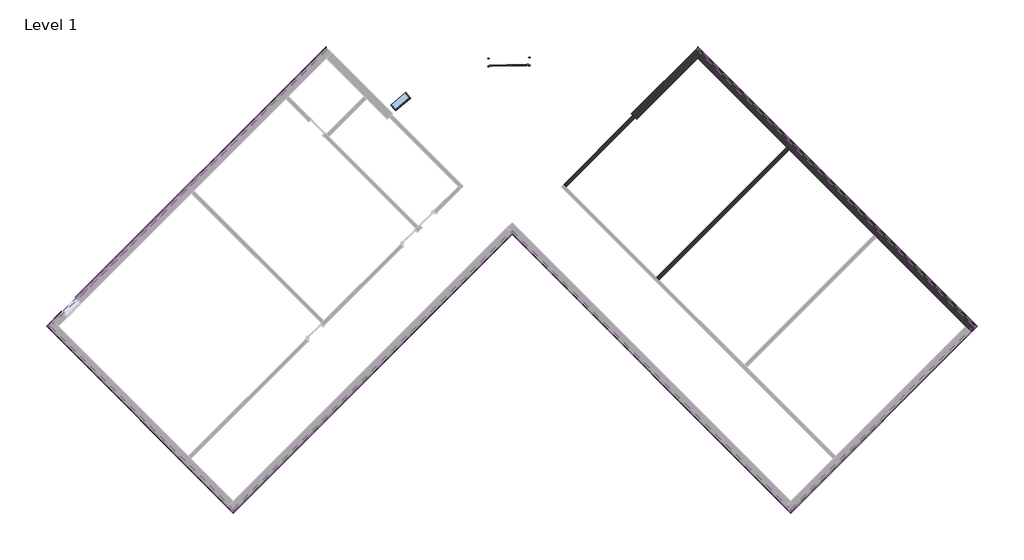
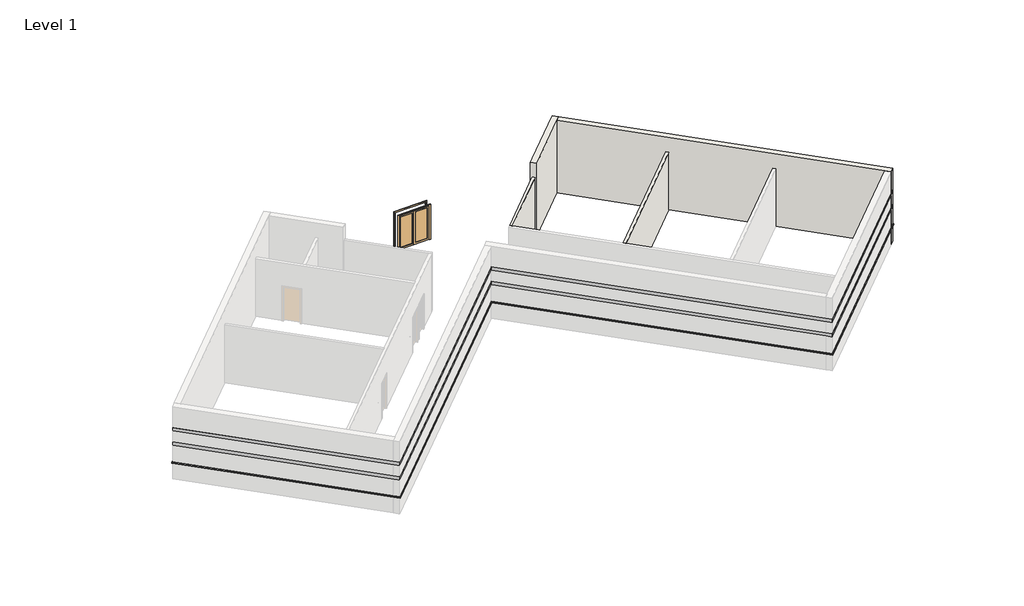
# One storey, part 2 of 2: 18 proxies, 4 walls, 1 door, 1 window.
"""IFC4 building model written with IfcOpenShell, lengths in millimetres."""

from ifc_helpers import new_model, si_unit, point, frame, frame_2d, origin, origin_with_axes, place, context, project, spatial, polyline, circle_curve, trimmed, segment, composite_curve, outline, extrude, faceted_brep, transform, mapped, element, save
from ifc_brep_helpers import plane_surface, cylinder_surface, revolved_surface, advanced_brep
from components import door_9e30bd7d, window_15c49d37

model = new_model("IFC4")

# Units and contexts
model_context = context("Model", 3, world=origin())
ifc_project = project(units=[si_unit("LENGTHUNIT", "METRE", prefix="MILLI")], contexts=[model_context])

# Site, building, storey
site = spatial("IfcSite", under=ifc_project)
building = spatial("IfcBuilding", under=site)
storey = spatial("IfcBuildingStorey", under=building, Name="Level 1", Elevation=0.0)

# Proxies
placement = place(None, origin())
element("IfcBuildingElementProxy", 1, Name="Wall Sweeps", at=placement, inside=storey, context=model_context, shape_type="Brep", body=[
    faceted_brep([(5753.0175119, 11443.3655905, 1085.85), (5753.0175119, 11573.5793042, 1085.85), (5753.0175119, 11622.9707129, 1041.4), (5753.0175119, 11622.9707129, 1016.0), (5753.0175119, 11443.3655905, 1016.0), (18554.3726125, -1357.9895101, 1085.85), (18554.3726125, -1357.9895101, 1016.0), (18733.9777349, -1357.9895101, 1016.0), (18733.9777349, -1357.9895101, 1041.4), (18684.5863263, -1357.9895101, 1085.85), (5937.1127624, 11259.27034, 1085.85), (5937.1127624, 11259.27034, 1016.0)], [[[0, 1, 2, 3, 4]], [[5, 6, 7, 8, 9]], [[1, 0, 10, 5, 9]], [[2, 1, 9, 8]], [[3, 2, 8, 7]], [[4, 3, 7, 6, 11]], [[0, 4, 11, 6, 5, 10]]]),
])
element("IfcBuildingElementProxy", 2, Name="Wall Sweeps", at=placement, inside=storey, context=model_context, shape_type="Brep", body=[
    faceted_brep([(5753.0175119, 11573.5793042, 2336.8), (5753.0175119, 11573.5793042, 2133.6), (5753.0175119, 11443.3655905, 2133.6), (5753.0175119, 11443.3655905, 2336.8), (18684.5863263, -1357.9895101, 2336.8), (18554.3726125, -1357.9895101, 2336.8), (18554.3726125, -1357.9895101, 2133.6), (18684.5863263, -1357.9895101, 2133.6), (6002.2196193, 11324.3771969, 2336.8), (6002.2196193, 11324.3771969, 2133.6), (5937.1127624, 11259.27034, 2133.6), (5937.1127624, 11259.27034, 2336.8)], [[[0, 1, 2, 3]], [[4, 5, 6, 7]], [[1, 0, 8, 4, 7, 9]], [[2, 1, 9, 7, 6, 10]], [[3, 2, 10, 6, 5, 11]], [[0, 3, 11, 5, 4, 8]]]),
])
element("IfcBuildingElementProxy", 3, Name="Wall Sweeps", at=placement, inside=storey, context=model_context, shape_type="Brep", body=[
    faceted_brep([(5753.0175119, 11573.5793042, 3251.2), (5753.0175119, 11573.5793042, 3048.0), (5753.0175119, 11443.3655905, 3048.0), (5753.0175119, 11443.3655905, 3251.2), (18684.5863263, -1357.9895101, 3251.2), (18554.3726125, -1357.9895101, 3251.2), (18554.3726125, -1357.9895101, 3048.0), (18684.5863263, -1357.9895101, 3048.0), (6002.2196193, 11324.3771969, 3251.2), (6002.2196193, 11324.3771969, 3048.0), (5937.1127624, 11259.27034, 3048.0), (5937.1127624, 11259.27034, 3251.2)], [[[0, 1, 2, 3]], [[4, 5, 6, 7]], [[1, 0, 8, 4, 7, 9]], [[2, 1, 9, 7, 6, 10]], [[3, 2, 10, 6, 5, 11]], [[0, 3, 11, 5, 4, 8]]]),
])
element("IfcBuildingElementProxy", 4, Name="Wall Sweeps", at=placement, inside=storey, context=model_context, shape_type="Brep", body=[
    faceted_brep([(18554.3726125, -1357.9895101, 1085.85), (18684.5863263, -1357.9895101, 1085.85), (18733.9777349, -1357.9895101, 1041.4), (18733.9777349, -1357.9895101, 1016.0), (18554.3726125, -1357.9895101, 1016.0), (10063.54045, -9848.8216726, 1085.85), (10063.54045, -9848.8216726, 1016.0), (10063.54045, -10028.426795, 1016.0), (10063.54045, -10028.426795, 1041.4), (10063.54045, -9979.0353863, 1085.85), (18370.277362, -1542.0847606, 1085.85), (18370.277362, -1542.0847606, 1016.0)], [[[0, 1, 2, 3, 4]], [[5, 6, 7, 8, 9]], [[1, 0, 10, 5, 9]], [[2, 1, 9, 8]], [[3, 2, 8, 7]], [[4, 3, 7, 6, 11]], [[0, 4, 11, 6, 5, 10]]]),
])
element("IfcBuildingElementProxy", 5, Name="Wall Sweeps", at=placement, inside=storey, context=model_context, shape_type="Brep", body=[
    faceted_brep([(18684.5863263, -1357.9895101, 2336.8), (18684.5863263, -1357.9895101, 2133.6), (18554.3726125, -1357.9895101, 2133.6), (18554.3726125, -1357.9895101, 2336.8), (10063.54045, -9979.0353863, 2336.8), (10063.54045, -9848.8216726, 2336.8), (10063.54045, -9848.8216726, 2133.6), (10063.54045, -9979.0353863, 2133.6), (18435.3842189, -1607.1916175, 2336.8), (18435.3842189, -1607.1916175, 2133.6), (18370.277362, -1542.0847606, 2133.6), (18370.277362, -1542.0847606, 2336.8)], [[[0, 1, 2, 3]], [[4, 5, 6, 7]], [[1, 0, 8, 4, 7, 9]], [[2, 1, 9, 7, 6, 10]], [[3, 2, 10, 6, 5, 11]], [[0, 3, 11, 5, 4, 8]]]),
])
element("IfcBuildingElementProxy", 6, Name="Wall Sweeps", at=placement, inside=storey, context=model_context, shape_type="Brep", body=[
    faceted_brep([(18684.5863263, -1357.9895101, 3251.2), (18684.5863263, -1357.9895101, 3048.0), (18554.3726125, -1357.9895101, 3048.0), (18554.3726125, -1357.9895101, 3251.2), (10063.54045, -9979.0353863, 3251.2), (10063.54045, -9848.8216726, 3251.2), (10063.54045, -9848.8216726, 3048.0), (10063.54045, -9979.0353863, 3048.0), (18435.3842189, -1607.1916175, 3251.2), (18435.3842189, -1607.1916175, 3048.0), (18370.277362, -1542.0847606, 3048.0), (18370.277362, -1542.0847606, 3251.2)], [[[0, 1, 2, 3]], [[4, 5, 6, 7]], [[1, 0, 8, 4, 7, 9]], [[2, 1, 9, 7, 6, 10]], [[3, 2, 10, 6, 5, 11]], [[0, 3, 11, 5, 4, 8]]]),
])
element("IfcBuildingElementProxy", 7, Name="Wall Sweeps", at=placement, inside=storey, context=model_context, shape_type="Brep", body=[
    faceted_brep([(10063.54045, -9848.8216726, 1085.85), (10063.54045, -9979.0353863, 1085.85), (10063.54045, -10028.426795, 1041.4), (10063.54045, -10028.426795, 1016.0), (10063.54045, -9848.8216726, 1016.0), (-2868.0283643, 3082.7471418, 1085.85), (-2868.0283643, 3082.7471418, 1016.0), (-2868.0283643, 2903.1420194, 1016.0), (-2868.0283643, 2903.1420194, 1041.4), (-2868.0283643, 2952.533428, 1085.85), (9879.4451996, -9664.7264221, 1085.85), (9879.4451996, -9664.7264221, 1016.0)], [[[0, 1, 2, 3, 4]], [[5, 6, 7, 8, 9]], [[1, 0, 10, 5, 9]], [[2, 1, 9, 8]], [[3, 2, 8, 7]], [[4, 3, 7, 6, 11]], [[0, 4, 11, 6, 5, 10]]]),
])
element("IfcBuildingElementProxy", 8, Name="Wall Sweeps", at=placement, inside=storey, context=model_context, shape_type="Brep", body=[
    faceted_brep([(10063.54045, -9979.0353863, 2336.8), (10063.54045, -9979.0353863, 2133.6), (10063.54045, -9848.8216726, 2133.6), (10063.54045, -9848.8216726, 2336.8), (-2868.0283643, 2952.533428, 2336.8), (-2868.0283643, 3082.7471418, 2336.8), (-2868.0283643, 3082.7471418, 2133.6), (-2868.0283643, 2952.533428, 2133.6), (9814.3383427, -9729.833279, 2336.8), (9814.3383427, -9729.833279, 2133.6), (9879.4451996, -9664.7264221, 2133.6), (9879.4451996, -9664.7264221, 2336.8)], [[[0, 1, 2, 3]], [[4, 5, 6, 7]], [[1, 0, 8, 4, 7, 9]], [[2, 1, 9, 7, 6, 10]], [[3, 2, 10, 6, 5, 11]], [[0, 3, 11, 5, 4, 8]]]),
])
element("IfcBuildingElementProxy", 9, Name="Wall Sweeps", at=placement, inside=storey, context=model_context, shape_type="Brep", body=[
    faceted_brep([(10063.54045, -9979.0353863, 3251.2), (10063.54045, -9979.0353863, 3048.0), (10063.54045, -9848.8216726, 3048.0), (10063.54045, -9848.8216726, 3251.2), (-2868.0283643, 2952.533428, 3251.2), (-2868.0283643, 3082.7471418, 3251.2), (-2868.0283643, 3082.7471418, 3048.0), (-2868.0283643, 2952.533428, 3048.0), (9814.3383427, -9729.833279, 3251.2), (9814.3383427, -9729.833279, 3048.0), (9879.4451996, -9664.7264221, 3048.0), (9879.4451996, -9664.7264221, 3251.2)], [[[0, 1, 2, 3]], [[4, 5, 6, 7]], [[1, 0, 8, 4, 7, 9]], [[2, 1, 9, 7, 6, 10]], [[3, 2, 10, 6, 5, 11]], [[0, 3, 11, 5, 4, 8]]]),
])
element("IfcBuildingElementProxy", 10, Name="Wall Sweeps", at=placement, inside=storey, context=model_context, shape_type="Brep", body=[
    faceted_brep([(-2868.0283643, 3082.7471418, 1085.85), (-2868.0283643, 2952.533428, 1085.85), (-2868.0283643, 2903.1420194, 1041.4), (-2868.0283643, 2903.1420194, 1016.0), (-2868.0283643, 3082.7471418, 1016.0), (-15799.5971786, -9848.8216726, 1085.85), (-15799.5971786, -9848.8216726, 1016.0), (-15799.5971786, -10028.426795, 1016.0), (-15799.5971786, -10028.426795, 1041.4), (-15799.5971786, -9979.0353863, 1085.85), (-2933.1352212, 3017.6402849, 1085.85), (-2933.1352212, 3017.6402849, 1016.0)], [[[0, 1, 2, 3, 4]], [[5, 6, 7, 8, 9]], [[1, 0, 10, 5, 9]], [[2, 1, 9, 8]], [[3, 2, 8, 7]], [[4, 3, 7, 6, 11]], [[0, 4, 11, 6, 5, 10]]]),
])
element("IfcBuildingElementProxy", 11, Name="Wall Sweeps", at=placement, inside=storey, context=model_context, shape_type="Brep", body=[
    faceted_brep([(-2868.0283643, 2952.533428, 2336.8), (-2868.0283643, 2952.533428, 2133.6), (-2868.0283643, 3082.7471418, 2133.6), (-2868.0283643, 3082.7471418, 2336.8), (-15799.5971786, -9979.0353863, 2336.8), (-15799.5971786, -9848.8216726, 2336.8), (-15799.5971786, -9848.8216726, 2133.6), (-15799.5971786, -9979.0353863, 2133.6), (-2933.1352212, 3017.6402849, 2133.6), (-2933.1352212, 3017.6402849, 2336.8)], [[[0, 1, 2, 3]], [[4, 5, 6, 7]], [[1, 0, 4, 7]], [[2, 1, 7, 6, 8]], [[3, 2, 8, 6, 5, 9]], [[0, 3, 9, 5, 4]]]),
])
element("IfcBuildingElementProxy", 12, Name="Wall Sweeps", at=placement, inside=storey, context=model_context, shape_type="Brep", body=[
    faceted_brep([(-2868.0283643, 2952.533428, 3251.2), (-2868.0283643, 2952.533428, 3048.0), (-2868.0283643, 3082.7471418, 3048.0), (-2868.0283643, 3082.7471418, 3251.2), (-15799.5971786, -9979.0353863, 3251.2), (-15799.5971786, -9848.8216726, 3251.2), (-15799.5971786, -9848.8216726, 3048.0), (-15799.5971786, -9979.0353863, 3048.0), (-2933.1352212, 3017.6402849, 3048.0), (-2933.1352212, 3017.6402849, 3251.2)], [[[0, 1, 2, 3]], [[4, 5, 6, 7]], [[1, 0, 4, 7]], [[2, 1, 7, 6, 8]], [[3, 2, 8, 6, 5, 9]], [[0, 3, 9, 5, 4]]]),
])
element("IfcBuildingElementProxy", 13, Name="Wall Sweeps", at=placement, inside=storey, context=model_context, shape_type="Brep", body=[
    faceted_brep([(-15799.5971786, -9848.8216726, 1085.85), (-15799.5971786, -9979.0353863, 1085.85), (-15799.5971786, -10028.426795, 1041.4), (-15799.5971786, -10028.426795, 1016.0), (-15799.5971786, -9848.8216726, 1016.0), (-24290.4293411, -1357.9895101, 1085.85), (-24290.4293411, -1357.9895101, 1016.0), (-24470.0344635, -1357.9895101, 1016.0), (-24470.0344635, -1357.9895101, 1041.4), (-24420.6430549, -1357.9895101, 1085.85), (-15983.6924291, -9664.7264221, 1085.85), (-15983.6924291, -9664.7264221, 1016.0)], [[[0, 1, 2, 3, 4]], [[5, 6, 7, 8, 9]], [[1, 0, 10, 5, 9]], [[2, 1, 9, 8]], [[3, 2, 8, 7]], [[4, 3, 7, 6, 11]], [[0, 4, 11, 6, 5, 10]]]),
])
element("IfcBuildingElementProxy", 14, Name="Wall Sweeps", at=placement, inside=storey, context=model_context, shape_type="Brep", body=[
    faceted_brep([(-15799.5971786, -9979.0353863, 2336.8), (-15799.5971786, -9979.0353863, 2133.6), (-15799.5971786, -9848.8216726, 2133.6), (-15799.5971786, -9848.8216726, 2336.8), (-24420.6430549, -1357.9895101, 2336.8), (-24290.4293411, -1357.9895101, 2336.8), (-24290.4293411, -1357.9895101, 2133.6), (-24420.6430549, -1357.9895101, 2133.6), (-16048.799286, -9729.833279, 2336.8), (-16048.799286, -9729.833279, 2133.6), (-15983.6924291, -9664.7264221, 2133.6), (-15983.6924291, -9664.7264221, 2336.8)], [[[0, 1, 2, 3]], [[4, 5, 6, 7]], [[1, 0, 8, 4, 7, 9]], [[2, 1, 9, 7, 6, 10]], [[3, 2, 10, 6, 5, 11]], [[0, 3, 11, 5, 4, 8]]]),
])
element("IfcBuildingElementProxy", 15, Name="Wall Sweeps", at=placement, inside=storey, context=model_context, shape_type="Brep", body=[
    faceted_brep([(-15799.5971786, -9979.0353863, 3251.2), (-15799.5971786, -9979.0353863, 3048.0), (-15799.5971786, -9848.8216726, 3048.0), (-15799.5971786, -9848.8216726, 3251.2), (-24420.6430549, -1357.9895101, 3251.2), (-24290.4293411, -1357.9895101, 3251.2), (-24290.4293411, -1357.9895101, 3048.0), (-24420.6430549, -1357.9895101, 3048.0), (-16048.799286, -9729.833279, 3251.2), (-16048.799286, -9729.833279, 3048.0), (-15983.6924291, -9664.7264221, 3048.0), (-15983.6924291, -9664.7264221, 3251.2)], [[[0, 1, 2, 3]], [[4, 5, 6, 7]], [[1, 0, 8, 4, 7, 9]], [[2, 1, 9, 7, 6, 10]], [[3, 2, 10, 6, 5, 11]], [[0, 3, 11, 5, 4, 8]]]),
])
element("IfcBuildingElementProxy", 16, Name="Wall Sweeps", at=placement, inside=storey, context=model_context, shape_type="Brep", body=[
    faceted_brep([(-24290.4293411, -1357.9895101, 1085.85), (-24420.6430549, -1357.9895101, 1085.85), (-24470.0344635, -1357.9895101, 1041.4), (-24470.0344635, -1357.9895101, 1016.0), (-24290.4293411, -1357.9895101, 1016.0), (-23692.119777, -759.679946, 1085.85), (-23692.119777, -759.679946, 1016.0), (-23757.2266339, -694.5730891, 1016.0), (-23781.9223383, -669.8773848, 1016.0), (-23781.9223383, -669.8773848, 1041.4), (-23757.2266339, -694.5730891, 1085.85), (-24106.3340906, -1173.8942596, 1085.85), (-24106.3340906, -1173.8942596, 1016.0)], [[[0, 1, 2, 3, 4]], [[5, 6, 7, 8, 9, 10]], [[1, 0, 11, 5, 10]], [[2, 1, 10, 9]], [[3, 2, 9, 8]], [[4, 3, 8, 7, 6, 12]], [[0, 4, 12, 6, 5, 11]]]),
    faceted_brep([(-23045.5413363, -113.1015053, 1085.85), (-23110.6481932, -47.9946484, 1085.85), (-23135.3438975, -23.2989441, 1041.4), (-23135.3438975, -23.2989441, 1016.0), (-23110.6481932, -47.9946484, 1016.0), (-23045.5413363, -113.1015053, 1016.0), (-11489.0742405, 11443.3655905, 1085.85), (-11489.0742405, 11443.3655905, 1016.0), (-11489.0742405, 11622.9707129, 1016.0), (-11489.0742405, 11622.9707129, 1041.4), (-11489.0742405, 11573.5793042, 1085.85)], [[[0, 1, 2, 3, 4, 5]], [[6, 7, 8, 9, 10]], [[1, 0, 6, 10]], [[2, 1, 10, 9]], [[3, 2, 9, 8]], [[5, 4, 3, 8, 7]], [[0, 5, 7, 6]]]),
])
element("IfcBuildingElementProxy", 17, Name="Wall Sweeps", at=placement, inside=storey, context=model_context, shape_type="Brep", body=[
    faceted_brep([(-24420.6430549, -1357.9895101, 2336.8), (-24420.6430549, -1357.9895101, 2133.6), (-24290.4293411, -1357.9895101, 2133.6), (-24290.4293411, -1357.9895101, 2336.8), (-23757.2266339, -694.5730891, 2336.8), (-23692.119777, -759.679946, 2336.8), (-23692.119777, -759.679946, 2133.6), (-23757.2266339, -694.5730891, 2133.6), (-24171.4409475, -1108.7874027, 2336.8), (-24171.4409475, -1108.7874027, 2133.6), (-24106.3340906, -1173.8942596, 2133.6), (-24106.3340906, -1173.8942596, 2336.8)], [[[0, 1, 2, 3]], [[4, 5, 6, 7]], [[1, 0, 8, 4, 7, 9]], [[2, 1, 9, 7, 6, 10]], [[3, 2, 10, 6, 5, 11]], [[0, 3, 11, 5, 4, 8]]]),
    faceted_brep([(-23110.6481932, -47.9946484, 2336.8), (-23110.6481932, -47.9946484, 2133.6), (-23045.5413363, -113.1015053, 2133.6), (-23045.5413363, -113.1015053, 2336.8), (-11489.0742405, 11573.5793042, 2336.8), (-11489.0742405, 11443.3655905, 2336.8), (-11489.0742405, 11443.3655905, 2133.6), (-11489.0742405, 11573.5793042, 2133.6)], [[[0, 1, 2, 3]], [[4, 5, 6, 7]], [[1, 0, 4, 7]], [[2, 1, 7, 6]], [[3, 2, 6, 5]], [[0, 3, 5, 4]]]),
])
element("IfcBuildingElementProxy", 18, Name="Wall Sweeps", at=placement, inside=storey, context=model_context, shape_type="Brep", body=[
    faceted_brep([(-24420.6430549, -1357.9895101, 3251.2), (-24420.6430549, -1357.9895101, 3048.0), (-24290.4293411, -1357.9895101, 3048.0), (-24290.4293411, -1357.9895101, 3251.2), (-11489.0742405, 11573.5793042, 3251.2), (-11489.0742405, 11443.3655905, 3251.2), (-11489.0742405, 11443.3655905, 3048.0), (-11489.0742405, 11573.5793042, 3048.0), (-24171.4409475, -1108.7874027, 3251.2), (-24171.4409475, -1108.7874027, 3048.0), (-24106.3340906, -1173.8942596, 3048.0), (-24106.3340906, -1173.8942596, 3251.2)], [[[0, 1, 2, 3]], [[4, 5, 6, 7]], [[1, 0, 8, 4, 7, 9]], [[2, 1, 9, 7, 6, 10]], [[3, 2, 10, 6, 5, 11]], [[0, 3, 11, 5, 4, 8]]]),
])

# Door
door_shape = door_9e30bd7d(model_context)
element("IfcDoor", 19, ObjectType="Door-Double-Glass : 72\" x 84\"", at=placement, inside=storey, context=model_context, shape_type="MappedRepresentation", body=[
    mapped(door_shape, transform((-3008.4636447, 10906.7210206, 0.0), x_axis=(-0.9998460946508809, -0.01754385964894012, 0.0), y_axis=(0.01754385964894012, -0.9998460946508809, 0.0), z_axis=(0.0, 0.0, 1.0))),
])

# Walls
element("IfcWall", 20, ObjectType="Exterior - Split Face and CMU on Mtl. Stud", at=placement, inside=storey, context=model_context, shape_type="AdvancedBrep", body=[
    advanced_brep(
    [(2921.9555443, 8244.1131219, 0.0), (5753.0175119, 11075.1750895, 0.0), (6002.2196193, 11324.3771969, 0.0), (6002.2196193, 11324.3771969, 1016.0), (5937.1127624, 11259.27034, 1016.0), (5937.1127624, 11259.27034, 1085.85), (6002.2196193, 11324.3771969, 1085.85), (6002.2196193, 11324.3771969, 2133.6), (5937.1127624, 11259.27034, 2133.6), (5937.1127624, 11259.27034, 2336.8), (6002.2196193, 11324.3771969, 2336.8), (6002.2196193, 11324.3771969, 3048.0), (5937.1127624, 11259.27034, 3048.0), (5937.1127624, 11259.27034, 3251.2), (6002.2196193, 11324.3771969, 3251.2), (6002.2196193, 11324.3771969, 4572.0), (5753.0175119, 11075.1750895, 4572.0), (2921.9555443, 8244.1131219, 4572.0), (2677.2250436, 8497.7868359, 4572.0), (2926.4294954, 8746.9912878, 4572.0), (5753.0175119, 11573.5793042, 4572.0), (5753.0175119, 11573.5793042, 3251.2), (2926.4294954, 8746.9912878, 3251.2), (2861.3220456, 8681.8838379, 3251.2), (2861.3220456, 8681.8838379, 3048.0), (2926.4294954, 8746.9912878, 3048.0), (5753.0175119, 11573.5793042, 3048.0), (5753.0175119, 11573.5793042, 2336.8), (2926.4294954, 8746.9912878, 2336.8), (2861.3220456, 8681.8838379, 2336.8), (2861.3220456, 8681.8838379, 2133.6), (2926.4294954, 8746.9912878, 2133.6), (5753.0175119, 11573.5793042, 2133.6), (5753.0175119, 11573.5793042, 1085.85), (2926.4294954, 8746.9912878, 1085.85), (2861.3220456, 8681.8838379, 1085.85), (2861.3220456, 8681.8838379, 1016.0), (2926.4294954, 8746.9912878, 1016.0), (5753.0175119, 11573.5793042, 1016.0), (5753.0175119, 11573.5793042, 0.0), (2926.4294954, 8746.9912878, 0.0), (2677.2250436, 8497.7868359, 0.0), (5818.1243688, 11508.4724474, 0.0), (2742.2400511, 8432.5881297, 0.0), (2746.695582, 8428.0638276, 0.0), (2854.7283421, 8316.0840715, 0.0), (5753.0175119, 11443.3655905, 1085.85), (2926.3399919, 8616.6880705, 1085.85), (2926.3399919, 8616.6880705, 1016.0), (5753.0175119, 11443.3655905, 1016.0), (2926.3399919, 8616.6880705, 2133.6), (5753.0175119, 11443.3655905, 2133.6), (2926.3399919, 8616.6880705, 2336.8), (5753.0175119, 11443.3655905, 2336.8), (2926.3399919, 8616.6880705, 3048.0), (5753.0175119, 11443.3655905, 3048.0), (2926.3399919, 8616.6880705, 3251.2), (5753.0175119, 11443.3655905, 3251.2)],
    [
        (0, 1),
        (1, 2),
        (2, 3),
        (3, 4),
        (4, 5),
        (5, 6),
        (6, 7),
        (7, 8),
        (8, 9),
        (9, 10),
        (10, 11),
        (11, 12),
        (12, 13),
        (13, 14),
        (14, 15),
        (15, 16),
        (16, 17),
        (17, 0),
        (18, 19),
        (19, 20),
        (20, 21),
        (21, 22),
        (22, 23),
        (23, 24),
        (24, 25),
        (25, 26),
        (26, 27),
        (27, 28),
        (28, 29),
        (29, 30),
        (30, 31),
        (31, 32),
        (32, 33),
        (33, 34),
        (34, 35),
        (35, 36),
        (36, 37),
        (37, 38),
        (38, 39),
        (39, 40),
        (40, 41),
        (41, 18),
        (15, 20),
        (18, 17, circle_curve(frame((-2868.0283643, 2903.1420194, 4572.0), z_axis=(0.0, 0.0, -1.0), x_axis=(1.0, 0.0, 0.0)), 7877.175)),
        (14, 21),
        (2, 42),
        (42, 39),
        (38, 3),
        (6, 33),
        (32, 7),
        (10, 27),
        (26, 11),
        (41, 43, circle_curve(frame((-2868.0283643, 2903.1420194, 0.0), z_axis=(0.0, 0.0, -1.0), x_axis=(1.0, 0.0, 0.0)), 7877.175)),
        (43, 44, circle_curve(frame((-2868.0283643, 2903.1420194, 0.0), z_axis=(0.0, 0.0, -1.0), x_axis=(1.0, 0.0, 0.0)), 7877.175)),
        (44, 45, circle_curve(frame((-2868.0283643, 2903.1420194, 0.0), z_axis=(0.0, 0.0, -1.0), x_axis=(1.0, 0.0, 0.0)), 7877.175)),
        (45, 0, circle_curve(frame((-2868.0283643, 2903.1420194, 0.0), z_axis=(0.0, 0.0, -1.0), x_axis=(1.0, 0.0, 0.0)), 7877.175)),
        (43, 42),
        (46, 47),
        (47, 35, circle_curve(frame((-2868.0283643, 2903.1420194, 1085.85), z_axis=(0.0, 0.0, 1.0), x_axis=(-0.7040995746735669, 0.7101012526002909, 0.0)), 8137.525)),
        (5, 46),
        (48, 49),
        (49, 4),
        (36, 48, circle_curve(frame((-2868.0283643, 2903.1420194, 1016.0), z_axis=(0.0, 0.0, -1.0), x_axis=(-0.7040995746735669, 0.7101012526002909, 0.0)), 8137.525)),
        (47, 48),
        (46, 49),
        (50, 51),
        (51, 8),
        (30, 50, circle_curve(frame((-2868.0283643, 2903.1420194, 2133.6), z_axis=(0.0, 0.0, -1.0), x_axis=(-0.7040995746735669, 0.7101012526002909, 0.0)), 8137.525)),
        (52, 50),
        (29, 52, circle_curve(frame((-2868.0283643, 2903.1420194, 2336.8), z_axis=(0.0, 0.0, -1.0), x_axis=(-0.7040995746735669, 0.7101012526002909, 0.0)), 8137.525)),
        (53, 52),
        (9, 53),
        (53, 51),
        (54, 55),
        (55, 12),
        (24, 54, circle_curve(frame((-2868.0283643, 2903.1420194, 3048.0), z_axis=(0.0, 0.0, -1.0), x_axis=(-0.7040995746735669, 0.7101012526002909, 0.0)), 8137.525)),
        (56, 54),
        (23, 56, circle_curve(frame((-2868.0283643, 2903.1420194, 3251.2), z_axis=(0.0, 0.0, -1.0), x_axis=(-0.7040995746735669, 0.7101012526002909, 0.0)), 8137.525)),
        (57, 56),
        (13, 57),
        (57, 55),
    ],
    [
        plane_surface(frame((2984.8535626, 8307.0111402, 0.0), z_axis=(0.707106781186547, -0.7071067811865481, 0.0), x_axis=(0.7071067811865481, 0.707106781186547, 0.0))),
        plane_surface(frame((2735.6514552, 8556.2132476, 0.0), z_axis=(-0.707106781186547, 0.7071067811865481, 0.0), x_axis=(-0.7071067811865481, -0.707106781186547, 0.0))),
        plane_surface(frame((5877.6185656, 11199.7761432, 4572.0), z_axis=(0.0, 0.0, 1.0), x_axis=(-0.707106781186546, 0.7071067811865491, 0.0))),
        plane_surface(frame((5753.0175119, 11573.5793042, 0.0), z_axis=(0.7071067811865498, 0.7071067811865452, 0.0), x_axis=(-0.7071067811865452, 0.7071067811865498, 0.0))),
        revolved_surface(polyline([(5009.146635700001, 2903.1420194, 0.0), (5009.146635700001, 2903.1420194, 4572.0)]), (-2868.0283643, 2903.1420194, 0.0), (0.0, 0.0, -1.0)),
        plane_surface(frame((3050.2065213, 8372.3640989, 0.0), z_axis=(0.0, 0.0, -1.0000000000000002), x_axis=(-0.7071067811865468, 0.7071067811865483, 0.0))),
        plane_surface(frame((0.0, 0.0, 0.0), z_axis=(0.0, 0.0, -1.0), x_axis=(1.0, 0.0, 0.0))),
        plane_surface(frame((-2868.0283643, 2903.1420194, 1085.85), z_axis=(0.0, 0.0, -1.0), x_axis=(-0.7040995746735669, 0.7101012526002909, 0.0))),
        plane_surface(frame((-2868.0283643, 2903.1420194, 1016.0), z_axis=(0.0, 0.0, 1.0), x_axis=(-0.7040995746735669, 0.7101012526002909, 0.0))),
        cylinder_surface(frame((-2868.0283643, 2903.1420194, 1016.0), z_axis=(0.0, 0.0, -1.0), x_axis=(-0.7040995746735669, 0.7101012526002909, 0.0)), 8137.525),
        plane_surface(frame((2926.3399919, 8616.6880705, 1016.0), z_axis=(-0.7071067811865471, 0.707106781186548, 0.0), x_axis=(0.707106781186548, 0.7071067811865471, 0.0))),
        plane_surface(frame((5753.0175119, 11443.3655905, 1016.0), z_axis=(0.70710678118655, 0.7071067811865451, 0.0), x_axis=(0.7071067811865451, -0.70710678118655, 0.0))),
        plane_surface(frame((-2868.0283643, 2903.1420194, 2133.6), z_axis=(0.0, 0.0, 1.0), x_axis=(-0.7040995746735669, 0.7101012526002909, 0.0))),
        cylinder_surface(frame((-2868.0283643, 2903.1420194, 2133.6), z_axis=(0.0, 0.0, -1.0), x_axis=(-0.7040995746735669, 0.7101012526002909, 0.0)), 8137.525),
        plane_surface(frame((-2868.0283643, 2903.1420194, 2336.8), z_axis=(0.0, 0.0, -1.0), x_axis=(-0.7040995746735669, 0.7101012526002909, 0.0))),
        plane_surface(frame((2926.3399919, 8616.6880705, 2133.6), z_axis=(-0.7071067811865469, 0.7071067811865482, 0.0), x_axis=(0.7071067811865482, 0.7071067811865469, 0.0))),
        plane_surface(frame((5753.0175119, 11443.3655905, 2133.6), z_axis=(0.7071067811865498, 0.7071067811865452, 0.0), x_axis=(0.7071067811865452, -0.7071067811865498, 0.0))),
        plane_surface(frame((-2868.0283643, 2903.1420194, 3048.0), z_axis=(0.0, 0.0, 1.0), x_axis=(-0.7040995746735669, 0.7101012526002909, 0.0))),
        cylinder_surface(frame((-2868.0283643, 2903.1420194, 3048.0), z_axis=(0.0, 0.0, -1.0), x_axis=(-0.7040995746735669, 0.7101012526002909, 0.0)), 8137.525),
        plane_surface(frame((-2868.0283643, 2903.1420194, 3251.2), z_axis=(0.0, 0.0, -1.0), x_axis=(-0.7040995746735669, 0.7101012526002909, 0.0))),
        plane_surface(frame((2926.3399919, 8616.6880705, 3048.0), z_axis=(-0.7071067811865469, 0.7071067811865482, 0.0), x_axis=(0.7071067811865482, 0.7071067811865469, 0.0))),
        plane_surface(frame((5753.0175119, 11443.3655905, 3048.0), z_axis=(0.7071067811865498, 0.7071067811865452, 0.0), x_axis=(0.7071067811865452, -0.7071067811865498, 0.0))),
    ],
    [
        (0, [[1, 2, 3, 4, 5, 6, 7, 8, 9, 10, 11, 12, 13, 14, 15, 16, 17, 18]]),
        (1, [[19, 20, 21, 22, 23, 24, 25, 26, 27, 28, 29, 30, 31, 32, 33, 34, 35, 36, 37, 38, 39, 40, 41, 42]]),
        (2, [[-17, -16, 43, -20, -19, 44]]),
        (3, [[-43, -15, 45, -21]]),
        (3, [[46, 47, -39, 48, -3]]),
        (3, [[49, -33, 50, -7]]),
        (3, [[51, -27, 52, -11]]),
        (4, [[-44, -42, 53, 54, 55, 56, -18]]),
        (5, [[-2, -1, -56, -55, -54, 57, -46]]),
        (6, [[-53, -41, -40, -47, -57]]),
        (7, [[58, 59, -35, -34, -49, -6, 60]]),
        (8, [[61, 62, -4, -48, -38, -37, 63]]),
        (9, [[64, -63, -36, -59]]),
        (10, [[-58, 65, -61, -64]]),
        (11, [[-65, -60, -5, -62]]),
        (12, [[66, 67, -8, -50, -32, -31, 68]]),
        (13, [[69, -68, -30, 70]]),
        (14, [[71, -70, -29, -28, -51, -10, 72]]),
        (15, [[-66, -69, -71, 73]]),
        (16, [[-73, -72, -9, -67]]),
        (17, [[74, 75, -12, -52, -26, -25, 76]]),
        (18, [[77, -76, -24, 78]]),
        (19, [[79, -78, -23, -22, -45, -14, 80]]),
        (20, [[-74, -77, -79, 81]]),
        (21, [[-81, -80, -13, -75]]),
    ],
),
])
element("IfcWall", 21, ObjectType="Exterior - Split Face and CMU on Mtl. Stud", at=placement, inside=storey, context=model_context, shape_type="Brep", body=[
    faceted_brep([(5753.0175119, 11075.1750895, 0.0), (9883.9353276, 6944.2572738, 0.0), (9993.9434651, 6834.2491364, 0.0), (13945.2561584, 2882.9364431, 0.0), (14055.2642958, 2772.9283056, 0.0), (18186.1821115, -1357.9895101, 0.0), (18435.3842189, -1607.1916175, 0.0), (18435.3842189, -1607.1916175, 1016.0), (18370.277362, -1542.0847606, 1016.0), (18370.277362, -1542.0847606, 1085.85), (18435.3842189, -1607.1916175, 1085.85), (18435.3842189, -1607.1916175, 2133.6), (18370.277362, -1542.0847606, 2133.6), (18370.277362, -1542.0847606, 2336.8), (18435.3842189, -1607.1916175, 2336.8), (18435.3842189, -1607.1916175, 3048.0), (18370.277362, -1542.0847606, 3048.0), (18370.277362, -1542.0847606, 3251.2), (18435.3842189, -1607.1916175, 3251.2), (18435.3842189, -1607.1916175, 4572.0), (18186.1821115, -1357.9895101, 4572.0), (5753.0175119, 11075.1750895, 4572.0), (6002.2196193, 11324.3771969, 4572.0), (18684.5863263, -1357.9895101, 4572.0), (18684.5863263, -1357.9895101, 3251.2), (6002.2196193, 11324.3771969, 3251.2), (18684.5863263, -1357.9895101, 0.0), (6002.2196193, 11324.3771969, 0.0), (6002.2196193, 11324.3771969, 1016.0), (18684.5863263, -1357.9895101, 1016.0), (18684.5863263, -1357.9895101, 1085.85), (6002.2196193, 11324.3771969, 1085.85), (6002.2196193, 11324.3771969, 2133.6), (18684.5863263, -1357.9895101, 2133.6), (18684.5863263, -1357.9895101, 2336.8), (6002.2196193, 11324.3771969, 2336.8), (6002.2196193, 11324.3771969, 3048.0), (18684.5863263, -1357.9895101, 3048.0), (18619.4794694, -1423.096367, 0.0), (5937.1127624, 11259.27034, 3251.2), (5937.1127624, 11259.27034, 3048.0), (5937.1127624, 11259.27034, 2336.8), (5937.1127624, 11259.27034, 2133.6), (5937.1127624, 11259.27034, 1085.85), (5937.1127624, 11259.27034, 1016.0), (5937.1127624, 11259.27034, 0.0), (18554.3726125, -1357.9895101, 1085.85), (18554.3726125, -1357.9895101, 1016.0), (18554.3726125, -1357.9895101, 2133.6), (18554.3726125, -1357.9895101, 2336.8), (18554.3726125, -1357.9895101, 3048.0), (18554.3726125, -1357.9895101, 3251.2)], [[[0, 1, 2, 3, 4, 5, 6, 7, 8, 9, 10, 11, 12, 13, 14, 15, 16, 17, 18, 19, 20, 21]], [[22, 23, 24, 25]], [[26, 27, 28, 29]], [[30, 31, 32, 33]], [[34, 35, 36, 37]], [[21, 20, 19, 23, 22]], [[23, 19, 18, 24]], [[6, 38, 26, 29, 7]], [[10, 30, 33, 11]], [[14, 34, 37, 15]], [[0, 21, 22, 25, 39, 40, 36, 35, 41, 42, 32, 31, 43, 44, 28, 27, 45]], [[6, 5, 4, 3, 2, 1, 0, 45, 38]], [[45, 27, 26, 38]], [[9, 46, 43, 31, 30, 10]], [[44, 47, 8, 7, 29, 28]], [[46, 47, 44, 43]], [[47, 46, 9, 8]], [[42, 48, 12, 11, 33, 32]], [[13, 49, 41, 35, 34, 14]], [[49, 48, 42, 41]], [[48, 49, 13, 12]], [[40, 50, 16, 15, 37, 36]], [[17, 51, 39, 25, 24, 18]], [[51, 50, 40, 39]], [[50, 51, 17, 16]]]),
])
element("IfcWall", 22, ObjectType="Interior - 6 1/8\" Partition (2-hr)", at=placement, inside=storey, context=model_context, shape_type="SweptSolid", body=[
    extrude(outline(polyline([(3846.9581502, 907.2800964), (9883.9353276, 6944.2572738), (9993.9434651, 6834.2491364), (3956.9662877, 797.271959), (3846.9581502, 907.2800964)])), origin_with_axes(), (0.0, 0.0, 1.0), 3657.6),
])
element("IfcWall", 23, ObjectType="Interior - 6 1/8\" Partition (2-hr)", at=placement, inside=storey, context=model_context, shape_type="SweptSolid", body=[
    extrude(outline(composite_curve([segment(polyline([(-463.5647879, 5217.8030346), (2746.6957919, 8428.0636143)]), True, "CONTINUOUS"), segment(trimmed(circle_curve(frame_2d((-2868.0283643, 2903.1420194)), 7877.175), [point((2746.6957919, 8428.0636143))], [point((2854.7303749, 8316.0819224))], False, "CARTESIAN"), True, "CONTINUOUS"), segment(polyline([(2854.7303749, 8316.0819224), (-353.5566504, 5107.7948971), (-463.5647879, 5217.8030346)]), True, "CONTINUOUS")], self_intersect=False)), origin_with_axes(), (0.0, 0.0, 1.0), 3657.6),
])

# Window
window_shape = window_15c49d37(model_context)
element("IfcWindow", 24, ObjectType="Fixed : 36\" x 48\"", at=placement, inside=storey, context=model_context, shape_type="MappedRepresentation", body=[
    mapped(window_shape, transform((-8066.2237793, 9037.6928325, 0.0), x_axis=(-0.7659856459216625, -0.6428576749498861, 0.0), y_axis=(0.6428576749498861, -0.7659856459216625, 0.0), z_axis=(0.0, 0.0, 1.0))),
])

save(model, "model.ifc")
